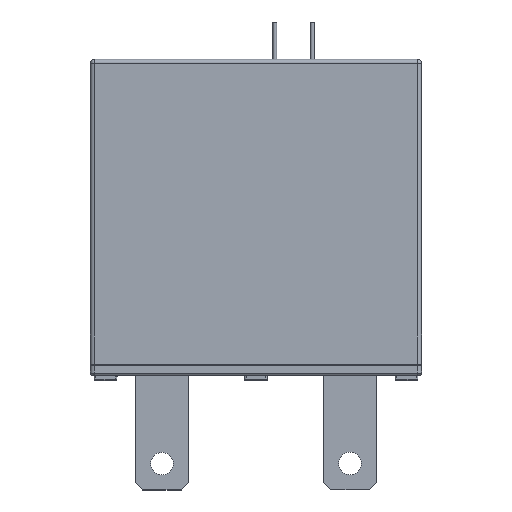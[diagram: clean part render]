
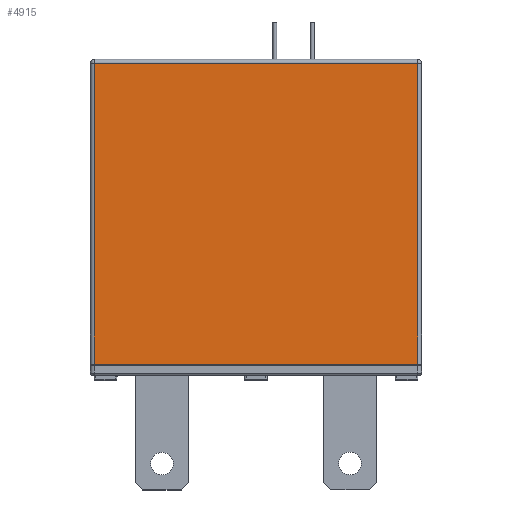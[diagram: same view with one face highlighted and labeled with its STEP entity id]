
A CAD part, top view. The second image highlights one B-rep face of the part: STEP entity #4915.
In plain terms, the highlighted planar face has unit normal (0, 0, 1).
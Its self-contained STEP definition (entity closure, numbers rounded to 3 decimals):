
#879=DIRECTION('',(1.,0.,0.));
#880=VECTOR('',#879,43.);
#881=CARTESIAN_POINT('',(-21.5,1.5,11.5));
#882=LINE('',#881,#880);
#1078=DIRECTION('',(1.,0.,0.));
#1079=VECTOR('',#1078,43.);
#1080=CARTESIAN_POINT('',(-21.5,41.5,11.5));
#1081=LINE('',#1080,#1079);
#1085=DIRECTION('',(0.,1.,0.));
#1086=VECTOR('',#1085,40.);
#1087=CARTESIAN_POINT('',(-21.5,1.5,11.5));
#1088=LINE('',#1087,#1086);
#1116=DIRECTION('',(0.,1.,0.));
#1117=VECTOR('',#1116,40.);
#1118=CARTESIAN_POINT('',(21.5,1.5,11.5));
#1119=LINE('',#1118,#1117);
#3935=CARTESIAN_POINT('',(-21.5,1.5,11.5));
#3936=VERTEX_POINT('',#3935);
#3937=CARTESIAN_POINT('',(21.5,1.5,11.5));
#3938=VERTEX_POINT('',#3937);
#4081=CARTESIAN_POINT('',(-21.5,41.5,11.5));
#4082=VERTEX_POINT('',#4081);
#4085=CARTESIAN_POINT('',(21.5,41.5,11.5));
#4086=VERTEX_POINT('',#4085);
#4902=CARTESIAN_POINT('',(-21.5,1.5,11.5));
#4903=DIRECTION('',(0.,0.,1.));
#4904=DIRECTION('',(1.,0.,0.));
#4905=AXIS2_PLACEMENT_3D('',#4902,#4903,#4904);
#4906=PLANE('',#4905);
#4908=ORIENTED_EDGE('',*,*,#4907,.T.);
#4910=ORIENTED_EDGE('',*,*,#4909,.F.);
#4911=ORIENTED_EDGE('',*,*,#4723,.F.);
#4912=ORIENTED_EDGE('',*,*,#4894,.T.);
#4913=EDGE_LOOP('',(#4908,#4910,#4911,#4912));
#4914=FACE_OUTER_BOUND('',#4913,.F.);
#4915=ADVANCED_FACE('',(#4914),#4906,.T.);
#4723=EDGE_CURVE('',#3936,#3938,#882,.T.);
#4894=EDGE_CURVE('',#3936,#4082,#1088,.T.);
#4907=EDGE_CURVE('',#4082,#4086,#1081,.T.);
#4909=EDGE_CURVE('',#3938,#4086,#1119,.T.);
